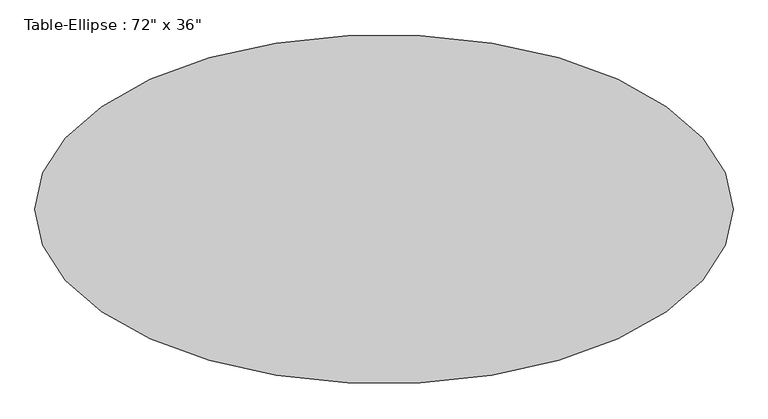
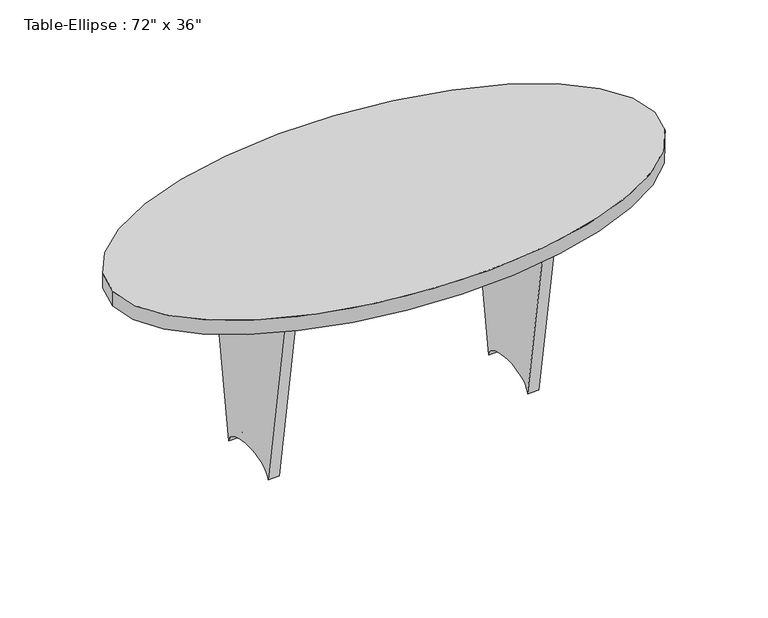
"""IFC4 building model written with IfcOpenShell, lengths in millimetres: furniture geometry."""

from ifc_helpers import new_model, si_unit, point, frame, origin, place, context, project, spatial, ellipse_curve, trimmed, source, transform, mapped, element, save
from ifc_brep_helpers import plane_surface, extruded_surface, advanced_brep


def furniture_43880056(model_context):
    return source(origin(), model_context, "Body", "AdvancedBrep", [
        advanced_brep(
        [(-914.4, 0.0, 762.0), (914.4, 0.0, 762.0), (-914.4, 0.0, 711.2), (914.4, 0.0, 711.2)],
        [
            (0, 1, ellipse_curve(frame((0.0, 0.0, 762.0), z_axis=(0.0, 0.0, 1.0), x_axis=(1.0, 0.0, 0.0)), 914.4, 457.2)),
            (1, 0, ellipse_curve(frame((0.0, 0.0, 762.0), z_axis=(0.0, 0.0, 1.0), x_axis=(1.0, 0.0, 0.0)), 914.4, 457.2)),
            (2, 3, ellipse_curve(frame((0.0, 0.0, 711.2), z_axis=(0.0, 0.0, -1.0), x_axis=(1.0, 0.0, 0.0)), 914.4, 457.2)),
            (3, 2, ellipse_curve(frame((0.0, 0.0, 711.2), z_axis=(0.0, 0.0, -1.0), x_axis=(1.0, 0.0, 0.0)), 914.4, 457.2)),
            (0, 2),
            (3, 1),
        ],
        [
            plane_surface(frame((914.4, 0.0, 762.0), z_axis=(0.0, 0.0, 1.0), x_axis=(0.0, 1.0, 0.0))),
            plane_surface(frame((914.4, 0.0, 711.2), z_axis=(0.0, 0.0, -1.0), x_axis=(0.0, -1.0, 0.0))),
            extruded_surface(trimmed(ellipse_curve(frame((0.0, 0.0, 660.4), z_axis=(0.0, 0.0, 1.0), x_axis=(1.0, 0.0, 0.0)), 914.4, 457.2), [point((-914.4, 0.0, 660.4))], [point((914.4, 0.0, 660.4))], True, "CARTESIAN"), (0.0, 0.0, 50.80000000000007), 50.80000000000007),
            extruded_surface(trimmed(ellipse_curve(frame((0.0, 0.0, 660.4), z_axis=(0.0, 0.0, 1.0), x_axis=(1.0, 0.0, 0.0)), 914.4, 457.2), [point((914.4, 0.0, 660.4))], [point((-914.4, 0.0, 660.4))], True, "CARTESIAN"), (0.0, 0.0, 50.80000000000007), 50.80000000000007),
        ],
        [
            (0, [[1, 2]]),
            (1, [[3, 4]]),
            (2, [[-1, 5, -4, 6]]),
            (3, [[-2, -6, -3, -5]]),
        ],
    ),
        advanced_brep(
        [(-419.1, 19.05, 711.2), (419.1, 19.05, 711.2), (419.1, 19.05, 474.1333333), (-419.1, 19.05, 474.1333333), (-419.1, -19.05, 711.2), (-419.1, -19.05, 474.1333333), (419.1, -19.05, 474.1333333), (419.1, -19.05, 711.2)],
        [
            (0, 1),
            (1, 2),
            (2, 3, ellipse_curve(frame((0.0, 19.05, 474.1333333), z_axis=(0.0, -1.0, 0.0), x_axis=(1.0, 0.0, 0.0)), 419.1, 101.6)),
            (3, 0),
            (4, 5),
            (5, 6, ellipse_curve(frame((0.0, -19.05, 474.1333333), z_axis=(0.0, 1.0, 0.0), x_axis=(1.0, 0.0, 0.0)), 419.1, 101.6)),
            (6, 7),
            (7, 4),
            (0, 4),
            (7, 1),
            (6, 2),
            (5, 3),
        ],
        [
            plane_surface(frame((-419.1, 19.05, 711.2), z_axis=(0.0, 1.0, 0.0), x_axis=(1.0, 0.0, 0.0))),
            plane_surface(frame((-419.1, -19.05, 711.2), z_axis=(0.0, -1.0, 0.0), x_axis=(-1.0, 0.0, 0.0))),
            plane_surface(frame((-419.1, 19.05, 711.2), z_axis=(0.0, 0.0, 1.0), x_axis=(0.0, -1.0, 0.0))),
            plane_surface(frame((419.1, 19.05, 711.2), z_axis=(1.0, 0.0, 0.0), x_axis=(0.0, -1.0, 0.0))),
            extruded_surface(trimmed(ellipse_curve(frame((0.0, -57.15, 474.1333333), z_axis=(0.0, -1.0, 0.0), x_axis=(1.0, 0.0, 0.0)), 419.1, 101.6), [point((419.1, -57.15, 474.1333333))], [point((-419.1, -57.15, 474.1333333))], True, "CARTESIAN"), (0.0, 38.099999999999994, 0.0), 38.099999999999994),
            plane_surface(frame((-419.1, 19.05, 474.1333333), z_axis=(-1.0, 0.0, 0.0), x_axis=(0.0, -1.0, 0.0))),
        ],
        [
            (0, [[1, 2, 3, 4]]),
            (1, [[5, 6, 7, 8]]),
            (2, [[-1, 9, -8, 10]]),
            (3, [[-2, -10, -7, 11]]),
            (4, [[-3, -11, -6, 12]]),
            (5, [[-4, -12, -5, -9]]),
        ],
    ),
        advanced_brep(
        [(457.2, 228.6, 711.2), (457.2, -228.6, 711.2), (457.2, -114.3, 0.0), (457.2, 114.3, 0.0), (419.1, 228.6, 711.2), (419.1, 114.3, 0.0), (419.1, -114.3, 0.0), (419.1, -228.6, 711.2)],
        [
            (0, 1),
            (1, 2),
            (2, 3, ellipse_curve(frame((457.2, 0.0, 0.0), z_axis=(-1.0, 0.0, 0.0), x_axis=(0.0, 1.0, 0.0)), 114.3, 50.8)),
            (3, 0),
            (4, 5),
            (5, 6, ellipse_curve(frame((419.1, 0.0, 0.0), z_axis=(1.0, 0.0, 0.0), x_axis=(0.0, 1.0, 0.0)), 114.3, 50.8)),
            (6, 7),
            (7, 4),
            (0, 4),
            (7, 1),
            (6, 2),
            (5, 3),
        ],
        [
            plane_surface(frame((457.2, -228.6, 711.2), z_axis=(1.0, 0.0, 0.0), x_axis=(0.0, -1.0, 0.0))),
            plane_surface(frame((419.1, -228.6, 711.2), z_axis=(-1.0, 0.0, 0.0), x_axis=(0.0, 1.0, 0.0))),
            plane_surface(frame((457.2, 228.6, 711.2), z_axis=(0.0, 0.0, 1.0), x_axis=(-1.0, 0.0, 0.0))),
            plane_surface(frame((457.2, -228.6, 711.2), z_axis=(0.0, -0.9873303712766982, -0.158678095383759), x_axis=(-1.0, 0.0, 0.0))),
            extruded_surface(trimmed(ellipse_curve(frame((381.0, 0.0, 0.0), z_axis=(-1.0, 0.0, 0.0), x_axis=(0.0, 1.0, 0.0)), 114.3, 50.8), [point((381.0, -114.3, 0.0))], [point((381.0, 114.3, 0.0))], True, "CARTESIAN"), (38.10000000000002, 0.0, 0.0), 38.10000000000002),
            plane_surface(frame((457.2, 114.3, 0.0), z_axis=(0.0, 0.9873303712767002, -0.1586780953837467), x_axis=(-1.0, 0.0, 0.0))),
        ],
        [
            (0, [[1, 2, 3, 4]]),
            (1, [[5, 6, 7, 8]]),
            (2, [[-1, 9, -8, 10]]),
            (3, [[-2, -10, -7, 11]]),
            (4, [[-3, -11, -6, 12]]),
            (5, [[-4, -12, -5, -9]]),
        ],
    ),
        advanced_brep(
        [(-419.1, 228.6, 711.2), (-419.1, -228.6, 711.2), (-419.1, -114.3, 0.0), (-419.1, 114.3, 0.0), (-457.2, 228.6, 711.2), (-457.2, 114.3, 0.0), (-457.2, -114.3, 0.0), (-457.2, -228.6, 711.2)],
        [
            (0, 1),
            (1, 2),
            (2, 3, ellipse_curve(frame((-419.1, 0.0, 0.0), z_axis=(-1.0, 0.0, 0.0), x_axis=(0.0, 1.0, 0.0)), 114.3, 50.8)),
            (3, 0),
            (4, 5),
            (5, 6, ellipse_curve(frame((-457.2, 0.0, 0.0), z_axis=(1.0, 0.0, 0.0), x_axis=(0.0, 1.0, 0.0)), 114.3, 50.8)),
            (6, 7),
            (7, 4),
            (0, 4),
            (7, 1),
            (6, 2),
            (5, 3),
        ],
        [
            plane_surface(frame((-419.1, -228.6, 711.2), z_axis=(1.0, 0.0, 0.0), x_axis=(0.0, -1.0, 0.0))),
            plane_surface(frame((-457.2, -228.6, 711.2), z_axis=(-1.0, 0.0, 0.0), x_axis=(0.0, 1.0, 0.0))),
            plane_surface(frame((-419.1, 228.6, 711.2), z_axis=(0.0, 0.0, 1.0), x_axis=(-1.0, 0.0, 0.0))),
            plane_surface(frame((-419.1, -228.6, 711.2), z_axis=(0.0, -0.9873303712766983, -0.15867809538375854), x_axis=(-1.0, 0.0, 0.0))),
            extruded_surface(trimmed(ellipse_curve(frame((-495.3, 0.0, 0.0), z_axis=(-1.0, 0.0, 0.0), x_axis=(0.0, 1.0, 0.0)), 114.3, 50.8), [point((-495.3, -114.3, 0.0))], [point((-495.3, 114.3, 0.0))], True, "CARTESIAN"), (38.10000000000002, 0.0, 0.0), 38.10000000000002),
            plane_surface(frame((-419.1, 114.3, 0.0), z_axis=(0.0, 0.9873303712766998, -0.15867809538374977), x_axis=(-1.0, 0.0, 0.0))),
        ],
        [
            (0, [[1, 2, 3, 4]]),
            (1, [[5, 6, 7, 8]]),
            (2, [[-1, 9, -8, 10]]),
            (3, [[-2, -10, -7, 11]]),
            (4, [[-3, -11, -6, 12]]),
            (5, [[-4, -12, -5, -9]]),
        ],
    ),
    ])


if __name__ == "__main__":
    model = new_model("IFC4")
    model_context = context("Model", 3, world=origin())
    ifc_project = project(units=[si_unit("LENGTHUNIT", "METRE", prefix="MILLI")], contexts=[model_context])
    site = spatial("IfcSite", under=ifc_project)
    building = spatial("IfcBuilding", under=site)
    placement = place(None, origin())
    furniture_shape = furniture_43880056(model_context)
    element("IfcFurniture", 1, ObjectType="Table-Ellipse : 72\" x 36\"", at=placement, inside=building, context=model_context, shape_type="MappedRepresentation", body=[
        mapped(furniture_shape, transform((0.0, 0.0, 0.0), x_axis=(1.0, 0.0, 0.0), y_axis=(0.0, 1.0, 0.0), z_axis=(0.0, 0.0, 1.0))),
    ])
    save(model, "model.ifc")
